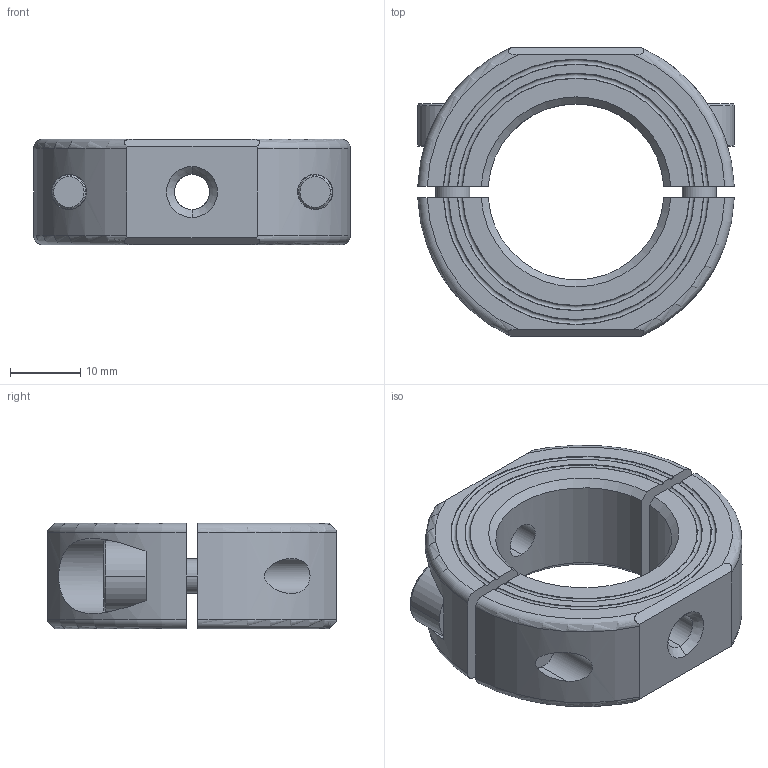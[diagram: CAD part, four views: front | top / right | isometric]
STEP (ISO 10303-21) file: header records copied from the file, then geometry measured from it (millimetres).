
FILE_DESCRIPTION (( 'STEP AP214' ), '1' );
FILE_NAME ('Ruland_OF-MSP-25-F.step', '2018-02-08T04:24:09', ( '' ), ( '' ), 'SwSTEP 2.0', 'SolidWorks 2018', '' );
FILE_SCHEMA (( 'AUTOMOTIVE_DESIGN' ));
Length unit declared in the file: millimetre
Products named in the file (3): OX-MSP-XX-XX-D_OF-MSP-25-F-D.step; Ruland_OF-MSP-25-F; Metric Socket Head Cap Screws 1_CFM6_16.step
Assembly tree (3 placements, depth 2):
  Ruland_OF-MSP-25-F
    OX-MSP-XX-XX-D_OF-MSP-25-F-D.step
    Metric Socket Head Cap Screws 1_CFM6_16.step  x2
Bounding box: 45 x 41 x 15 mm (x, y, z)
Volume: 13975.2 mm3; surface area: 7774.4 mm2
Topology: 4 solids, 4 shells, 108 faces, 270 edges, 176 vertices
Faces by surface type: plane 40, cylinder 32, cone 24, torus 12
Entity records: 4052 total; most frequent: CARTESIAN_POINT 1683, ORIENTED_EDGE 464, DIRECTION 432, EDGE_CURVE 232, AXIS2_PLACEMENT_3D 174, VERTEX_POINT 152, EDGE_LOOP 106, ADVANCED_FACE 90
